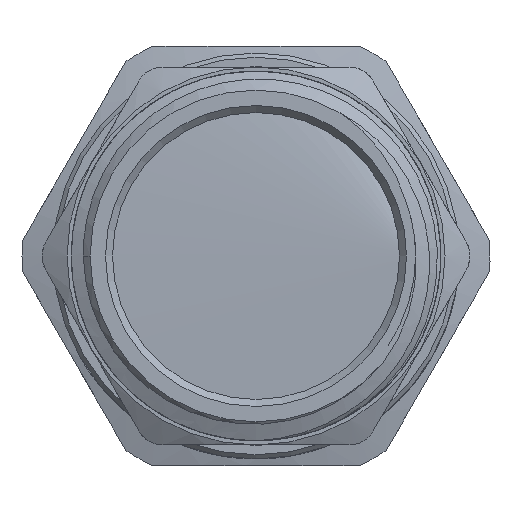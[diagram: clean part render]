
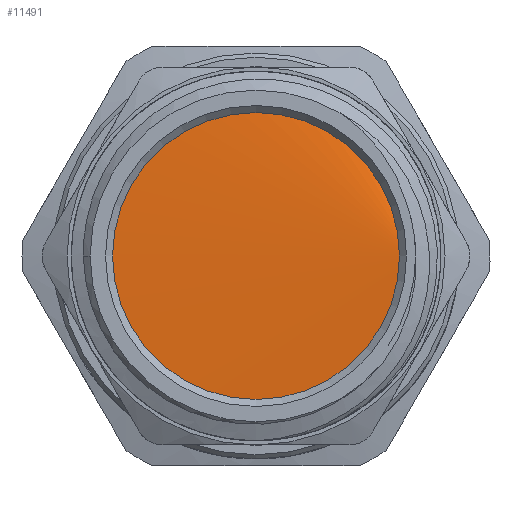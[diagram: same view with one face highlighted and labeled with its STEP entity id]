
A CAD part, left-side view. The second image highlights one B-rep face of the part: STEP entity #11491.
In plain terms, the highlighted cylindrical face has radius 11.4 mm (diameter 22.8 mm), a full revolution.
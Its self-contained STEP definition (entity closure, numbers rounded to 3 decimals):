
#986=FACE_OUTER_BOUND('',#1647,.T.);
#1647=EDGE_LOOP('',(#7702,#7703,#7704));
#2367=B_SPLINE_CURVE_WITH_KNOTS('',3,(#14800,#14801,#14802,#14803,#14804,
#14805,#14806,#14807,#14808,#14809,#14810,#14811,#14812,#14813,#14814,#14815,
#14816),.UNSPECIFIED.,.F.,.F.,(4,1,1,1,1,1,1,1,1,1,1,1,1,1,4),(9.425,
9.561,10.055,10.549,11.042,11.536,
12.03,12.524,13.018,13.511,14.005,
14.499,14.993,15.487,15.708),
 .UNSPECIFIED.);
#3126=LINE('',#14797,#3868);
#3127=LINE('',#14799,#3869);
#3868=VECTOR('',#12803,11.4);
#3869=VECTOR('',#12804,11.4);
#4610=VERTEX_POINT('',#14795);
#4611=VERTEX_POINT('',#14796);
#4612=VERTEX_POINT('',#14798);
#5855=EDGE_CURVE('',#4610,#4611,#3126,.T.);
#5856=EDGE_CURVE('',#4612,#4610,#3127,.T.);
#5857=EDGE_CURVE('',#4612,#4611,#2367,.T.);
#7702=ORIENTED_EDGE('',*,*,#5855,.F.);
#7703=ORIENTED_EDGE('',*,*,#5856,.F.);
#7704=ORIENTED_EDGE('',*,*,#5857,.T.);
#11396=CYLINDRICAL_SURFACE('',#12174,11.4);
#11491=ADVANCED_FACE('',(#986),#11396,.T.);
#12174=AXIS2_PLACEMENT_3D('',#14794,#12801,#12802);
#12801=DIRECTION('center_axis',(1.,0.,0.));
#12802=DIRECTION('ref_axis',(0.,1.,0.));
#12803=DIRECTION('',(1.,0.,0.));
#12804=DIRECTION('',(1.,0.,0.));
#14794=CARTESIAN_POINT('Origin',(-22.216,0.,
0.));
#14795=CARTESIAN_POINT('',(-19.416,-11.4,0.));
#14796=CARTESIAN_POINT('',(-17.716,-11.4,0.));
#14797=CARTESIAN_POINT('',(-22.216,-11.4,0.));
#14798=CARTESIAN_POINT('',(-19.516,-11.4,0.));
#14799=CARTESIAN_POINT('',(-22.216,-11.4,0.));
#14800=CARTESIAN_POINT('Ctrl Pts',(-19.516,-11.4,
0.));
#14801=CARTESIAN_POINT('Ctrl Pts',(-19.503,-11.4,
-0.518));
#14802=CARTESIAN_POINT('Ctrl Pts',(-19.443,-11.24,
-2.912));
#14803=CARTESIAN_POINT('Ctrl Pts',(-19.336,-9.594,
-6.996));
#14804=CARTESIAN_POINT('Ctrl Pts',(-19.194,-5.132,
-10.707));
#14805=CARTESIAN_POINT('Ctrl Pts',(-19.053,0.556,-11.861));
#14806=CARTESIAN_POINT('Ctrl Pts',(-18.912,6.111,-10.18));
#14807=CARTESIAN_POINT('Ctrl Pts',(-18.77,10.206,-6.068));
#14808=CARTESIAN_POINT('Ctrl Pts',(-18.629,11.863,-0.505));
#14809=CARTESIAN_POINT('Ctrl Pts',(-18.487,10.685,5.178));
#14810=CARTESIAN_POINT('Ctrl Pts',(-18.346,6.955,9.624));
#14811=CARTESIAN_POINT('Ctrl Pts',(-18.204,1.562,11.771));
#14812=CARTESIAN_POINT('Ctrl Pts',(-18.063,-4.203,11.105));
#14813=CARTESIAN_POINT('Ctrl Pts',(-17.921,-8.965,
7.786));
#14814=CARTESIAN_POINT('Ctrl Pts',(-17.806,-11.102,
3.559));
#14815=CARTESIAN_POINT('Ctrl Pts',(-17.738,-11.399,
0.841));
#14816=CARTESIAN_POINT('Ctrl Pts',(-17.716,-11.399,
0.));
